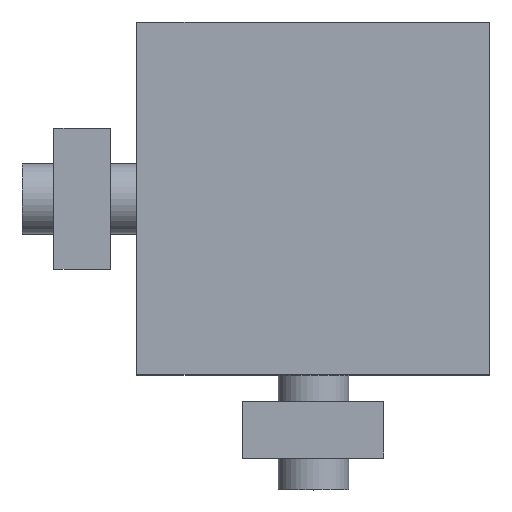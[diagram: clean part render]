
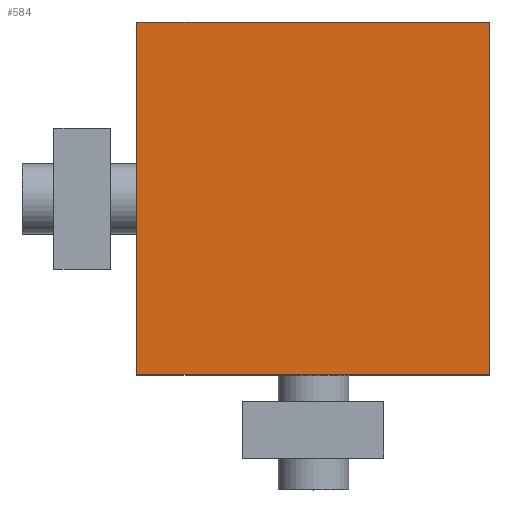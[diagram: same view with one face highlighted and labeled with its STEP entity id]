
A CAD part, top view. The second image highlights one B-rep face of the part: STEP entity #584.
In plain terms, the highlighted planar face has unit normal (0, 0, 1).
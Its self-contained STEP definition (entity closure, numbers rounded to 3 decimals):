
#470=CARTESIAN_POINT('',(0.0,0.0,7.5));
#471=VERTEX_POINT('',#470);
#472=CARTESIAN_POINT('',(0.0,20.,7.5));
#473=VERTEX_POINT('',#472);
#474=CARTESIAN_POINT('',(0.0,0.0,7.5));
#475=DIRECTION('',(0.0,1.0,0.0));
#476=VECTOR('',#475,20.);
#477=LINE('',#474,#476);
#478=EDGE_CURVE('',#471,#473,#477,.T.);
#504=CARTESIAN_POINT('',(20.,20.,7.5));
#505=VERTEX_POINT('',#504);
#506=CARTESIAN_POINT('',(0.0,20.,7.5));
#507=DIRECTION('',(1.0,0.0,0.0));
#508=VECTOR('',#507,20.);
#509=LINE('',#506,#508);
#510=EDGE_CURVE('',#473,#505,#509,.T.);
#531=CARTESIAN_POINT('',(20.,0.0,7.5));
#532=VERTEX_POINT('',#531);
#533=CARTESIAN_POINT('',(20.,20.,7.5));
#534=DIRECTION('',(0.0,-1.0,0.0));
#535=VECTOR('',#534,20.);
#536=LINE('',#533,#535);
#537=EDGE_CURVE('',#505,#532,#536,.T.);
#558=CARTESIAN_POINT('',(20.,0.0,7.5));
#559=DIRECTION('',(-1.0,0.0,0.0));
#560=VECTOR('',#559,20.);
#561=LINE('',#558,#560);
#562=EDGE_CURVE('',#532,#471,#561,.T.);
#573=CARTESIAN_POINT('',(10.,10.,7.5));
#574=DIRECTION('',(0.0,0.0,1.0));
#575=DIRECTION('',(1.0,0.0,0.0));
#576=AXIS2_PLACEMENT_3D('',#573,#574,#575);
#577=PLANE('',#576);
#578=ORIENTED_EDGE('',*,*,#478,.F.);
#579=ORIENTED_EDGE('',*,*,#562,.F.);
#580=ORIENTED_EDGE('',*,*,#537,.F.);
#581=ORIENTED_EDGE('',*,*,#510,.F.);
#582=EDGE_LOOP('',(#578,#579,#580,#581));
#583=FACE_OUTER_BOUND('',#582,.T.);
#584=ADVANCED_FACE('',(#583),#577,.T.);
